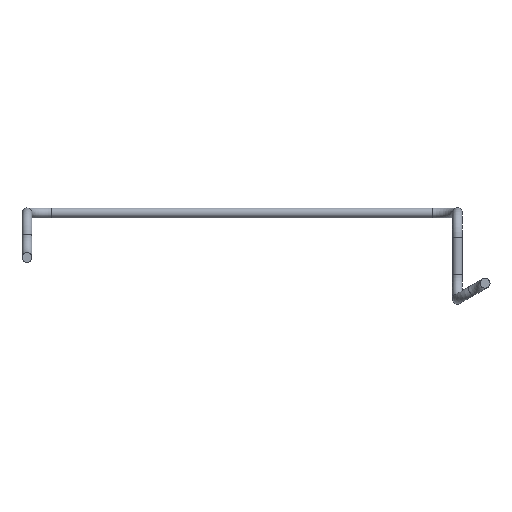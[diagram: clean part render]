
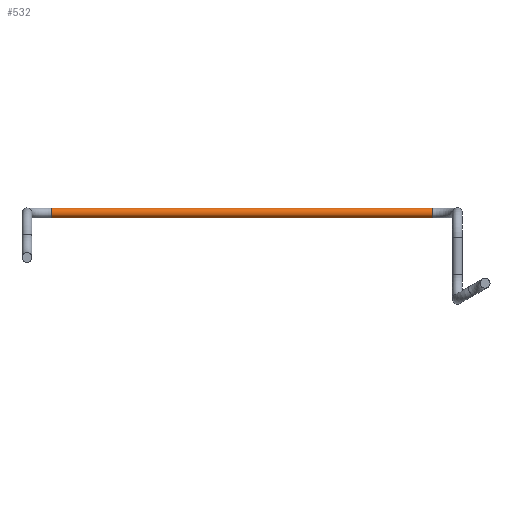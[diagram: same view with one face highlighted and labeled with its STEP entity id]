
A CAD part, top view. The second image highlights one B-rep face of the part: STEP entity #532.
In plain terms, the highlighted cylindrical face has radius 1 mm (diameter 2 mm), a full revolution.
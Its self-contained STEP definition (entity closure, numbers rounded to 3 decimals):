
#466 = TOROIDAL_SURFACE('',#467,5.,1.);
#467 = AXIS2_PLACEMENT_3D('',#468,#469,#470);
#468 = CARTESIAN_POINT('',(523.,523.5,738.));
#469 = DIRECTION('',(-0.,1.,0.));
#470 = DIRECTION('',(1.,0.,0.));
#483 = VERTEX_POINT('',#484);
#484 = CARTESIAN_POINT('',(523.,523.5,734.));
#505 = EDGE_CURVE('',#483,#483,#506,.T.);
#506 = SURFACE_CURVE('',#507,(#512,#519),.PCURVE_S1.);
#507 = CIRCLE('',#508,1.);
#508 = AXIS2_PLACEMENT_3D('',#509,#510,#511);
#509 = CARTESIAN_POINT('',(523.,523.5,733.));
#510 = DIRECTION('',(1.,0.,0.));
#511 = DIRECTION('',(0.,0.,-1.));
#512 = PCURVE('',#466,#513);
#513 = DEFINITIONAL_REPRESENTATION('',(#514),#518);
#514 = LINE('',#515,#516);
#515 = CARTESIAN_POINT('',(1.571,0.));
#516 = VECTOR('',#517,1.);
#517 = DIRECTION('',(0.,1.));
#518 = ( GEOMETRIC_REPRESENTATION_CONTEXT(2) 
PARAMETRIC_REPRESENTATION_CONTEXT() REPRESENTATION_CONTEXT('2D SPACE',''
  ) );
#519 = PCURVE('',#520,#525);
#520 = CYLINDRICAL_SURFACE('',#521,1.);
#521 = AXIS2_PLACEMENT_3D('',#522,#523,#524);
#522 = CARTESIAN_POINT('',(523.,523.5,733.));
#523 = DIRECTION('',(-1.,0.,0.));
#524 = DIRECTION('',(0.,0.,1.));
#525 = DEFINITIONAL_REPRESENTATION('',(#526),#529);
#526 = B_SPLINE_CURVE_WITH_KNOTS('',1,(#527,#528),.UNSPECIFIED.,.F.,.F.,
  (2,2),(3.142,9.425),.PIECEWISE_BEZIER_KNOTS.);
#527 = CARTESIAN_POINT('',(6.283,0.));
#528 = CARTESIAN_POINT('',(0.,0.));
#529 = ( GEOMETRIC_REPRESENTATION_CONTEXT(2) 
PARAMETRIC_REPRESENTATION_CONTEXT() REPRESENTATION_CONTEXT('2D SPACE',''
  ) );
#532 = ADVANCED_FACE('',(#533),#520,.T.);
#533 = FACE_BOUND('',#534,.T.);
#534 = EDGE_LOOP('',(#535,#557,#583,#584));
#535 = ORIENTED_EDGE('',*,*,#536,.T.);
#536 = EDGE_CURVE('',#483,#537,#539,.T.);
#537 = VERTEX_POINT('',#538);
#538 = CARTESIAN_POINT('',(446.,523.5,734.));
#539 = SEAM_CURVE('',#540,(#544,#550),.PCURVE_S1.);
#540 = LINE('',#541,#542);
#541 = CARTESIAN_POINT('',(523.,523.5,734.));
#542 = VECTOR('',#543,1.);
#543 = DIRECTION('',(-1.,0.,0.));
#544 = PCURVE('',#520,#545);
#545 = DEFINITIONAL_REPRESENTATION('',(#546),#549);
#546 = B_SPLINE_CURVE_WITH_KNOTS('',1,(#547,#548),.UNSPECIFIED.,.F.,.F.,
  (2,2),(0.,77.),.PIECEWISE_BEZIER_KNOTS.);
#547 = CARTESIAN_POINT('',(6.283,0.));
#548 = CARTESIAN_POINT('',(6.283,77.));
#549 = ( GEOMETRIC_REPRESENTATION_CONTEXT(2) 
PARAMETRIC_REPRESENTATION_CONTEXT() REPRESENTATION_CONTEXT('2D SPACE',''
  ) );
#550 = PCURVE('',#520,#551);
#551 = DEFINITIONAL_REPRESENTATION('',(#552),#556);
#552 = LINE('',#553,#554);
#553 = CARTESIAN_POINT('',(0.,0.));
#554 = VECTOR('',#555,1.);
#555 = DIRECTION('',(0.,1.));
#556 = ( GEOMETRIC_REPRESENTATION_CONTEXT(2) 
PARAMETRIC_REPRESENTATION_CONTEXT() REPRESENTATION_CONTEXT('2D SPACE',''
  ) );
#557 = ORIENTED_EDGE('',*,*,#558,.F.);
#558 = EDGE_CURVE('',#537,#537,#559,.T.);
#559 = SURFACE_CURVE('',#560,(#565,#572),.PCURVE_S1.);
#560 = CIRCLE('',#561,1.);
#561 = AXIS2_PLACEMENT_3D('',#562,#563,#564);
#562 = CARTESIAN_POINT('',(446.,523.5,733.));
#563 = DIRECTION('',(-1.,0.,0.));
#564 = DIRECTION('',(0.,0.,1.));
#565 = PCURVE('',#520,#566);
#566 = DEFINITIONAL_REPRESENTATION('',(#567),#571);
#567 = LINE('',#568,#569);
#568 = CARTESIAN_POINT('',(0.,77.));
#569 = VECTOR('',#570,1.);
#570 = DIRECTION('',(1.,0.));
#571 = ( GEOMETRIC_REPRESENTATION_CONTEXT(2) 
PARAMETRIC_REPRESENTATION_CONTEXT() REPRESENTATION_CONTEXT('2D SPACE',''
  ) );
#572 = PCURVE('',#573,#578);
#573 = TOROIDAL_SURFACE('',#574,5.,1.);
#574 = AXIS2_PLACEMENT_3D('',#575,#576,#577);
#575 = CARTESIAN_POINT('',(446.,523.5,738.));
#576 = DIRECTION('',(0.,1.,0.));
#577 = DIRECTION('',(0.,0.,-1.));
#578 = DEFINITIONAL_REPRESENTATION('',(#579),#582);
#579 = B_SPLINE_CURVE_WITH_KNOTS('',1,(#580,#581),.UNSPECIFIED.,.F.,.F.,
  (2,2),(0.,6.283),.PIECEWISE_BEZIER_KNOTS.);
#580 = CARTESIAN_POINT('',(0.,9.425));
#581 = CARTESIAN_POINT('',(0.,3.142));
#582 = ( GEOMETRIC_REPRESENTATION_CONTEXT(2) 
PARAMETRIC_REPRESENTATION_CONTEXT() REPRESENTATION_CONTEXT('2D SPACE',''
  ) );
#583 = ORIENTED_EDGE('',*,*,#536,.F.);
#584 = ORIENTED_EDGE('',*,*,#505,.F.);
